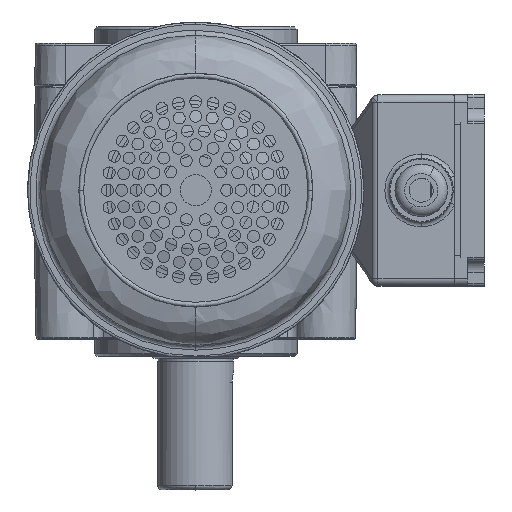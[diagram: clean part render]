
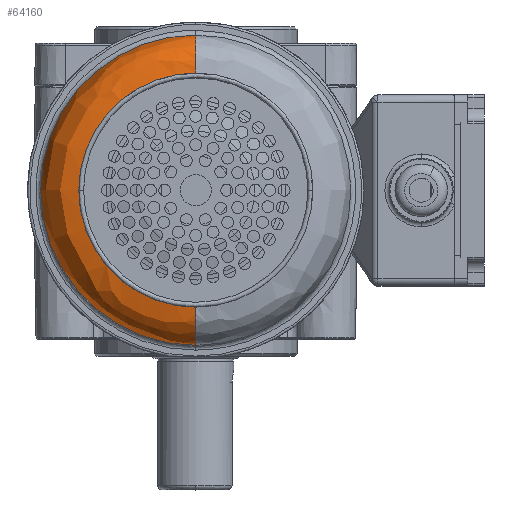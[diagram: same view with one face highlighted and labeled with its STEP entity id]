
A CAD part, top view. The second image highlights one B-rep face of the part: STEP entity #64160.
In plain terms, the highlighted free-form (B-spline) face has degree [3, 3] with [4, 4] control points.
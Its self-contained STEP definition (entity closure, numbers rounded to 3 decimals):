
#197 = ORIENTED_EDGE ( 'NONE', *, *, #54987, .T. ) ;
#262 = CARTESIAN_POINT ( 'NONE',  ( -38.598, 264.037, 161.035 ) ) ;
#1061 = AXIS2_PLACEMENT_3D ( 'NONE', #66745, #39931, #33982 ) ;
#1579 = DIRECTION ( 'NONE',  ( 1., 0., 0. ) ) ;
#2354 = EDGE_CURVE ( 'NONE', #19234, #26440, #50535, .T. ) ;
#3144 = ORIENTED_EDGE ( 'NONE', *, *, #52643, .T. ) ;
#5128 = CARTESIAN_POINT ( 'NONE',  ( -38.598, 264.037, 96.035 ) ) ;
#7144 = DIRECTION ( 'NONE',  ( 0., -1., 0. ) ) ;
#8245 = CARTESIAN_POINT ( 'NONE',  ( -38.598, 264.037, 210.035 ) ) ;
#8898 = CARTESIAN_POINT ( 'NONE',  ( -87.598, 280.037, 161.035 ) ) ;
#9004 = DIRECTION ( 'NONE',  ( 0., 0., 1. ) ) ;
#9091 = CARTESIAN_POINT ( 'NONE',  ( -168.598, 264.037, 226.035 ) ) ;
#9445 = CARTESIAN_POINT ( 'NONE',  ( -38.598, 264.037, 96.035 ) ) ;
#9619 = AXIS2_PLACEMENT_3D ( 'NONE', #31900, #42699, #37136 ) ;
#11844 = ORIENTED_EDGE ( 'NONE', *, *, #36454, .F. ) ;
#12688 = AXIS2_PLACEMENT_3D ( 'NONE', #262, #50179, #16257 ) ;
#15746 = CARTESIAN_POINT ( 'NONE',  ( -155.343, 280.037, 102.662 ) ) ;
#16116 = CARTESIAN_POINT ( 'NONE',  ( -38.598, 273.41, 226.035 ) ) ;
#16257 = DIRECTION ( 'NONE',  ( 1., 0., 0. ) ) ;
#17722 = VERTEX_POINT ( 'NONE', #8898 ) ;
#19234 = VERTEX_POINT ( 'NONE', #44344 ) ;
#20974 = CARTESIAN_POINT ( 'NONE',  ( -38.598, 280.037, 219.407 ) ) ;
#23477 = CARTESIAN_POINT ( 'NONE',  ( -103.598, 264.037, 161.035 ) ) ;
#26251 = ORIENTED_EDGE ( 'NONE', *, *, #2354, .T. ) ;
#26440 = VERTEX_POINT ( 'NONE', #65673 ) ;
#26588 = CARTESIAN_POINT ( 'NONE',  ( -168.598, 273.41, 96.035 ) ) ;
#27547 = EDGE_LOOP ( 'NONE', ( #54228, #26251, #3144, #197, #11844, #58213 ) ) ;
#30967 = DIRECTION ( 'NONE',  ( -1., 0., 0. ) ) ;
#31900 = CARTESIAN_POINT ( 'NONE',  ( -38.598, 264.037, 112.035 ) ) ;
#32167 = CARTESIAN_POINT ( 'NONE',  ( -168.598, 273.41, 226.035 ) ) ;
#33392 = CIRCLE ( 'NONE', #9619, 16. ) ;
#33982 = DIRECTION ( 'NONE',  ( 0., 0., -1. ) ) ;
#35037 = VERTEX_POINT ( 'NONE', #67318 ) ;
#36454 = EDGE_CURVE ( 'NONE', #60018, #35037, #33392, .T. ) ;
#36952 = CIRCLE ( 'NONE', #67816, 65. ) ;
#37136 = DIRECTION ( 'NONE',  ( 0., 0., -1. ) ) ;
#38862 = FACE_OUTER_BOUND ( 'NONE', #27547, .T. ) ;
#39189 = VERTEX_POINT ( 'NONE', #23477 ) ;
#39931 = DIRECTION ( 'NONE',  ( 0., -1., 0. ) ) ;
#40097 = CIRCLE ( 'NONE', #12688, 65. ) ;
#41059 = CARTESIAN_POINT ( 'NONE',  ( -38.598, 264.037, 161.035 ) ) ;
#41598 = DIRECTION ( 'NONE',  ( 0., 0., -1. ) ) ;
#42699 = DIRECTION ( 'NONE',  ( 1., 0., 0. ) ) ;
#43699 = CARTESIAN_POINT ( 'NONE',  ( -38.598, 280.037, 102.662 ) ) ;
#44344 = CARTESIAN_POINT ( 'NONE',  ( -38.598, 264.037, 226.035 ) ) ;
#44442 = CARTESIAN_POINT ( 'NONE',  ( -136.598, 280.037, 210.035 ) ) ;
#47727 = AXIS2_PLACEMENT_3D ( 'NONE', #64678, #65043, #41598 ) ;
#48454 = EDGE_CURVE ( 'NONE', #19234, #39189, #40097, .T. ) ;
#50179 = DIRECTION ( 'NONE',  ( 0., -1., 0. ) ) ;
#50535 = CIRCLE ( 'NONE', #70790, 16. ) ;
#52180 = CIRCLE ( 'NONE', #1061, 49. ) ;
#52643 = EDGE_CURVE ( 'NONE', #26440, #17722, #52180, .T. ) ;
#54007 = EDGE_CURVE ( 'NONE', #39189, #60018, #36952, .T. ) ;
#54228 = ORIENTED_EDGE ( 'NONE', *, *, #48454, .F. ) ;
#54437 =( BOUNDED_SURFACE ( )  B_SPLINE_SURFACE ( 3, 3, ( 
 ( #55601, #9091, #60456, #9445 ),
 ( #16116, #32167, #26588, #72000 ),
 ( #20974, #60828, #15746, #43699 ),
 ( #61564, #44442, #61197, #55236 ) ),
 .UNSPECIFIED., .F., .F., .F. ) 
 B_SPLINE_SURFACE_WITH_KNOTS ( ( 4, 4 ),
 ( 4, 4 ),
 ( 0., 1. ),
 ( 0., 1. ),
 .UNSPECIFIED. ) 
 GEOMETRIC_REPRESENTATION_ITEM ( )  RATIONAL_B_SPLINE_SURFACE ( (
 ( 1., 0.333, 0.333, 1.),
 ( 0.805, 0.268, 0.268, 0.805),
 ( 0.805, 0.268, 0.268, 0.805),
 ( 1., 0.333, 0.333, 1.) ) ) 
 REPRESENTATION_ITEM ( '' )  SURFACE ( )  );
#54987 = EDGE_CURVE ( 'NONE', #17722, #35037, #69133, .T. ) ;
#55236 = CARTESIAN_POINT ( 'NONE',  ( -38.598, 280.037, 112.035 ) ) ;
#55601 = CARTESIAN_POINT ( 'NONE',  ( -38.598, 264.037, 226.035 ) ) ;
#58213 = ORIENTED_EDGE ( 'NONE', *, *, #54007, .F. ) ;
#60018 = VERTEX_POINT ( 'NONE', #5128 ) ;
#60456 = CARTESIAN_POINT ( 'NONE',  ( -168.598, 264.037, 96.035 ) ) ;
#60828 = CARTESIAN_POINT ( 'NONE',  ( -155.343, 280.037, 219.407 ) ) ;
#61197 = CARTESIAN_POINT ( 'NONE',  ( -136.598, 280.037, 112.035 ) ) ;
#61564 = CARTESIAN_POINT ( 'NONE',  ( -38.598, 280.037, 210.035 ) ) ;
#64160 = ADVANCED_FACE ( 'NONE', ( #38862 ), #54437, .T. ) ;
#64678 = CARTESIAN_POINT ( 'NONE',  ( -38.598, 280.037, 161.035 ) ) ;
#65043 = DIRECTION ( 'NONE',  ( 0., -1., 0. ) ) ;
#65673 = CARTESIAN_POINT ( 'NONE',  ( -38.598, 280.037, 210.035 ) ) ;
#66745 = CARTESIAN_POINT ( 'NONE',  ( -38.598, 280.037, 161.035 ) ) ;
#67318 = CARTESIAN_POINT ( 'NONE',  ( -38.598, 280.037, 112.035 ) ) ;
#67816 = AXIS2_PLACEMENT_3D ( 'NONE', #41059, #7144, #1579 ) ;
#69133 = CIRCLE ( 'NONE', #47727, 49. ) ;
#70790 = AXIS2_PLACEMENT_3D ( 'NONE', #8245, #30967, #9004 ) ;
#72000 = CARTESIAN_POINT ( 'NONE',  ( -38.598, 273.41, 96.035 ) ) ;
